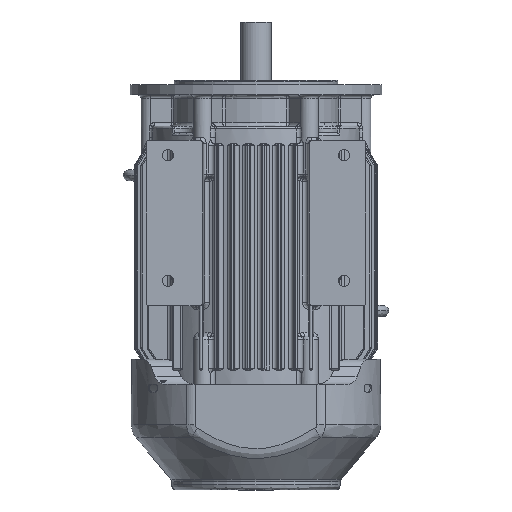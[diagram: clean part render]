
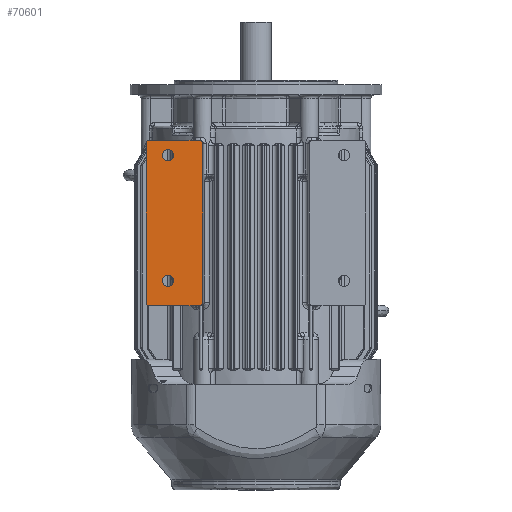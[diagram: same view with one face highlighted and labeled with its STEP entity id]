
A CAD part, front view. The second image highlights one B-rep face of the part: STEP entity #70601.
In plain terms, the highlighted planar face has unit normal (0, -1, 0).
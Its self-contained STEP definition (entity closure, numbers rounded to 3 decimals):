
#1405 = CIRCLE ( 'NONE', #49050, 4.5 ) ;
#6468 = AXIS2_PLACEMENT_3D ( 'NONE', #151211, #81599, #95164 ) ;
#6800 = CARTESIAN_POINT ( 'NONE',  ( -42.325, -90., 90. ) ) ;
#9524 = VERTEX_POINT ( 'NONE', #154446 ) ;
#10763 = EDGE_LOOP ( 'NONE', ( #75558, #61770, #18491, #95468, #160841, #102863, #77763, #170494 ) ) ;
#12942 = AXIS2_PLACEMENT_3D ( 'NONE', #98195, #112854, #85802 ) ;
#13397 = ORIENTED_EDGE ( 'NONE', *, *, #94738, .F. ) ;
#15227 = VERTEX_POINT ( 'NONE', #164326 ) ;
#15289 = VERTEX_POINT ( 'NONE', #180302 ) ;
#18491 = ORIENTED_EDGE ( 'NONE', *, *, #60897, .T. ) ;
#19315 = DIRECTION ( 'NONE',  ( 0., 0., 1. ) ) ;
#21663 = CARTESIAN_POINT ( 'NONE',  ( -70., -90., 76.5 ) ) ;
#23289 = EDGE_LOOP ( 'NONE', ( #92969, #13397 ) ) ;
#26149 = CARTESIAN_POINT ( 'NONE',  ( -70., -90., -19. ) ) ;
#26479 = EDGE_CURVE ( 'NONE', #9524, #28366, #104814, .T. ) ;
#26915 = VERTEX_POINT ( 'NONE', #124069 ) ;
#28366 = VERTEX_POINT ( 'NONE', #156614 ) ;
#31112 = CIRCLE ( 'NONE', #6468, 4.5 ) ;
#32148 = CARTESIAN_POINT ( 'NONE',  ( -70., -90., 81. ) ) ;
#32768 = DIRECTION ( 'NONE',  ( 0., 0., -1. ) ) ;
#33273 = EDGE_LOOP ( 'NONE', ( #147351, #83318 ) ) ;
#33467 = EDGE_CURVE ( 'NONE', #104083, #160204, #113818, .T. ) ;
#33854 = DIRECTION ( 'NONE',  ( 1., 0., 0. ) ) ;
#39618 = EDGE_CURVE ( 'NONE', #15227, #70377, #56646, .T. ) ;
#40751 = CARTESIAN_POINT ( 'NONE',  ( -111.777, -90., -114.175 ) ) ;
#41167 = CARTESIAN_POINT ( 'NONE',  ( -42.325, -90., -37.757 ) ) ;
#49050 = AXIS2_PLACEMENT_3D ( 'NONE', #32148, #74718, #32768 ) ;
#54333 = PLANE ( 'NONE',  #174681 ) ;
#56646 = CIRCLE ( 'NONE', #120007, 3. ) ;
#59814 = VECTOR ( 'NONE', #108841, 1000. ) ;
#60780 = FACE_BOUND ( 'NONE', #33273, .T. ) ;
#60897 = EDGE_CURVE ( 'NONE', #167844, #108345, #65009, .T. ) ;
#61564 = CARTESIAN_POINT ( 'NONE',  ( 0., -90., -39. ) ) ;
#61770 = ORIENTED_EDGE ( 'NONE', *, *, #138883, .T. ) ;
#65009 = CIRCLE ( 'NONE', #12942, 3. ) ;
#68667 = LINE ( 'NONE', #179233, #143514 ) ;
#70377 = VERTEX_POINT ( 'NONE', #124117 ) ;
#70601 = ADVANCED_FACE ( 'NONE', ( #98321, #60780, #104774 ), #54333, .F. ) ;
#74718 = DIRECTION ( 'NONE',  ( 0., -1., 0. ) ) ;
#75558 = ORIENTED_EDGE ( 'NONE', *, *, #39618, .T. ) ;
#75977 = EDGE_CURVE ( 'NONE', #28366, #15289, #143577, .T. ) ;
#77673 = VECTOR ( 'NONE', #33854, 1000. ) ;
#77763 = ORIENTED_EDGE ( 'NONE', *, *, #136793, .T. ) ;
#77826 = VERTEX_POINT ( 'NONE', #21663 ) ;
#81599 = DIRECTION ( 'NONE',  ( 0., -1., 0. ) ) ;
#83318 = ORIENTED_EDGE ( 'NONE', *, *, #33467, .F. ) ;
#84491 = CARTESIAN_POINT ( 'NONE',  ( -87.5, -90., -39. ) ) ;
#85802 = DIRECTION ( 'NONE',  ( 0., 0., 1. ) ) ;
#89612 = CARTESIAN_POINT ( 'NONE',  ( -70., -90., -23.5 ) ) ;
#92014 = CARTESIAN_POINT ( 'NONE',  ( -84.5, -90., 90. ) ) ;
#92969 = ORIENTED_EDGE ( 'NONE', *, *, #123094, .F. ) ;
#94738 = EDGE_CURVE ( 'NONE', #26915, #77826, #1405, .T. ) ;
#95164 = DIRECTION ( 'NONE',  ( 0., 0., -1. ) ) ;
#95468 = ORIENTED_EDGE ( 'NONE', *, *, #165395, .T. ) ;
#96106 = DIRECTION ( 'NONE',  ( -1., 0., 0. ) ) ;
#98195 = CARTESIAN_POINT ( 'NONE',  ( -84.5, -90., -36. ) ) ;
#98321 = FACE_OUTER_BOUND ( 'NONE', #10763, .T. ) ;
#98662 = DIRECTION ( 'NONE',  ( 0., 0., -1. ) ) ;
#102863 = ORIENTED_EDGE ( 'NONE', *, *, #75977, .T. ) ;
#103682 = DIRECTION ( 'NONE',  ( 0., -1., 0. ) ) ;
#104083 = VERTEX_POINT ( 'NONE', #113631 ) ;
#104774 = FACE_BOUND ( 'NONE', #23289, .T. ) ;
#104814 =( BOUNDED_CURVE ( )  B_SPLINE_CURVE ( 3, ( #152124, #166307, #41167, #153948 ),
 .UNSPECIFIED., .F., .F. ) 
 B_SPLINE_CURVE_WITH_KNOTS ( ( 4, 4 ),
 ( 4.712, 6.283 ),
 .UNSPECIFIED. ) 
 CURVE ( )  GEOMETRIC_REPRESENTATION_ITEM ( )  RATIONAL_B_SPLINE_CURVE ( ( 1., 0.805, 0.805, 1. ) ) 
 REPRESENTATION_ITEM ( '' )  );
#105294 = CARTESIAN_POINT ( 'NONE',  ( -45.336, -90., 93. ) ) ;
#108345 = VERTEX_POINT ( 'NONE', #166568 ) ;
#108752 = CARTESIAN_POINT ( 'NONE',  ( -70., -90., -19. ) ) ;
#108841 = DIRECTION ( 'NONE',  ( 0., 0., 1. ) ) ;
#110618 =( BOUNDED_CURVE ( )  B_SPLINE_CURVE ( 3, ( #6800, #132385, #131767, #105294 ),
 .UNSPECIFIED., .F., .F. ) 
 B_SPLINE_CURVE_WITH_KNOTS ( ( 4, 4 ),
 ( 0., 1.571 ),
 .UNSPECIFIED. ) 
 CURVE ( )  GEOMETRIC_REPRESENTATION_ITEM ( )  RATIONAL_B_SPLINE_CURVE ( ( 1., 0.805, 0.805, 1. ) ) 
 REPRESENTATION_ITEM ( '' )  );
#111835 = CARTESIAN_POINT ( 'NONE',  ( -45.336, -90., 93. ) ) ;
#112854 = DIRECTION ( 'NONE',  ( 0., -1., 0. ) ) ;
#113578 = VECTOR ( 'NONE', #98662, 1000. ) ;
#113631 = CARTESIAN_POINT ( 'NONE',  ( -70., -90., -14.5 ) ) ;
#113818 = CIRCLE ( 'NONE', #126551, 4.5 ) ;
#113948 = VERTEX_POINT ( 'NONE', #111835 ) ;
#120007 = AXIS2_PLACEMENT_3D ( 'NONE', #92014, #103682, #19315 ) ;
#123094 = EDGE_CURVE ( 'NONE', #77826, #26915, #31112, .T. ) ;
#123638 = CARTESIAN_POINT ( 'NONE',  ( -42.325, -90., -39. ) ) ;
#124069 = CARTESIAN_POINT ( 'NONE',  ( -70., -90., 85.5 ) ) ;
#124117 = CARTESIAN_POINT ( 'NONE',  ( -87.5, -90., 90. ) ) ;
#124675 = DIRECTION ( 'NONE',  ( 0., -1., 0. ) ) ;
#125688 = DIRECTION ( 'NONE',  ( 1., 0., 0. ) ) ;
#126551 = AXIS2_PLACEMENT_3D ( 'NONE', #26149, #124675, #138831 ) ;
#131767 = CARTESIAN_POINT ( 'NONE',  ( -43.572, -90., 93. ) ) ;
#132385 = CARTESIAN_POINT ( 'NONE',  ( -42.325, -90., 91.757 ) ) ;
#136793 = EDGE_CURVE ( 'NONE', #15289, #113948, #110618, .T. ) ;
#138831 = DIRECTION ( 'NONE',  ( 0., 0., -1. ) ) ;
#138883 = EDGE_CURVE ( 'NONE', #70377, #167844, #159999, .T. ) ;
#143514 = VECTOR ( 'NONE', #96106, 1000. ) ;
#143577 = LINE ( 'NONE', #123638, #59814 ) ;
#147351 = ORIENTED_EDGE ( 'NONE', *, *, #161615, .F. ) ;
#151211 = CARTESIAN_POINT ( 'NONE',  ( -70., -90., 81. ) ) ;
#151373 = DIRECTION ( 'NONE',  ( 0., 0., -1. ) ) ;
#152124 = CARTESIAN_POINT ( 'NONE',  ( -45.336, -90., -39. ) ) ;
#152626 = LINE ( 'NONE', #61564, #77673 ) ;
#153948 = CARTESIAN_POINT ( 'NONE',  ( -42.325, -90., -36. ) ) ;
#154446 = CARTESIAN_POINT ( 'NONE',  ( -45.336, -90., -39. ) ) ;
#155547 = CIRCLE ( 'NONE', #180361, 4.5 ) ;
#156614 = CARTESIAN_POINT ( 'NONE',  ( -42.325, -90., -36. ) ) ;
#159999 = LINE ( 'NONE', #84491, #113578 ) ;
#160204 = VERTEX_POINT ( 'NONE', #89612 ) ;
#160841 = ORIENTED_EDGE ( 'NONE', *, *, #26479, .T. ) ;
#161615 = EDGE_CURVE ( 'NONE', #160204, #104083, #155547, .T. ) ;
#164326 = CARTESIAN_POINT ( 'NONE',  ( -84.5, -90., 93. ) ) ;
#165395 = EDGE_CURVE ( 'NONE', #108345, #9524, #152626, .T. ) ;
#166307 = CARTESIAN_POINT ( 'NONE',  ( -43.572, -90., -39. ) ) ;
#166568 = CARTESIAN_POINT ( 'NONE',  ( -84.5, -90., -39. ) ) ;
#167844 = VERTEX_POINT ( 'NONE', #175157 ) ;
#170494 = ORIENTED_EDGE ( 'NONE', *, *, #177508, .T. ) ;
#174681 = AXIS2_PLACEMENT_3D ( 'NONE', #40751, #179398, #125688 ) ;
#175157 = CARTESIAN_POINT ( 'NONE',  ( -87.5, -90., -36. ) ) ;
#177508 = EDGE_CURVE ( 'NONE', #113948, #15227, #68667, .T. ) ;
#179233 = CARTESIAN_POINT ( 'NONE',  ( -111.777, -90., 93. ) ) ;
#179398 = DIRECTION ( 'NONE',  ( 0., 1., 0. ) ) ;
#180259 = DIRECTION ( 'NONE',  ( 0., -1., 0. ) ) ;
#180302 = CARTESIAN_POINT ( 'NONE',  ( -42.325, -90., 90. ) ) ;
#180361 = AXIS2_PLACEMENT_3D ( 'NONE', #108752, #180259, #151373 ) ;
